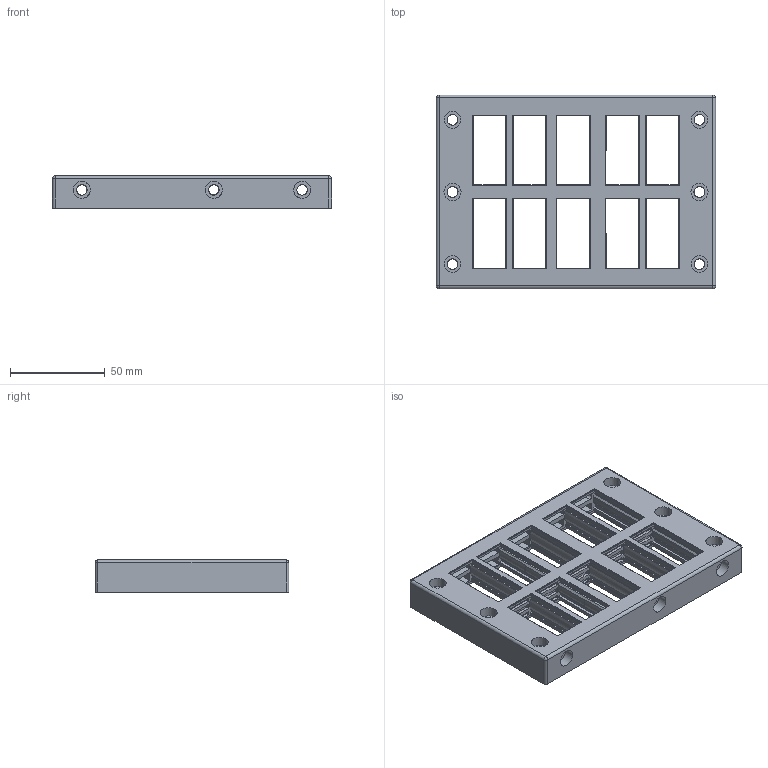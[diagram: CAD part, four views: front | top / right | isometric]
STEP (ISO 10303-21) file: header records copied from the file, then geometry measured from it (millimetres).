
FILE_DESCRIPTION (( 'STEP AP203' ), '1' );
FILE_NAME ('042232 KBL 24-20-MT.STEP', '2023-04-13T03:15:28', ( '' ), ( '' ), 'SwSTEP 2.0', 'SolidWorks 2016', '' );
FILE_SCHEMA (( 'CONFIG_CONTROL_DESIGN' ));
Length unit declared in the file: millimetre
Products named in the file (1): 042232 KBL 24-20-MT
Bounding box: 147 x 102 x 17 mm (x, y, z)
Volume: 95545.2 mm3; surface area: 69325.5 mm2
Topology: 1 solids, 11 shells, 1247 faces, 3433 edges, 2265 vertices
Faces by surface type: plane 897, cylinder 277, bspline 35, cone 27, torus 6, sphere 5
Full cylindrical faces by diameter (mm): 1.8 x6, 2 x6, 5.5 x7, 5.55 x4, 5.8 x2, 8.8 x4, 9 x5
Entity records: 46671 total; most frequent: CARTESIAN_POINT 16811, ORIENTED_EDGE 6748, DIRECTION 5029, EDGE_CURVE 3374, LINE 2419, VECTOR 2419, VERTEX_POINT 2250, EDGE_LOOP 1410
